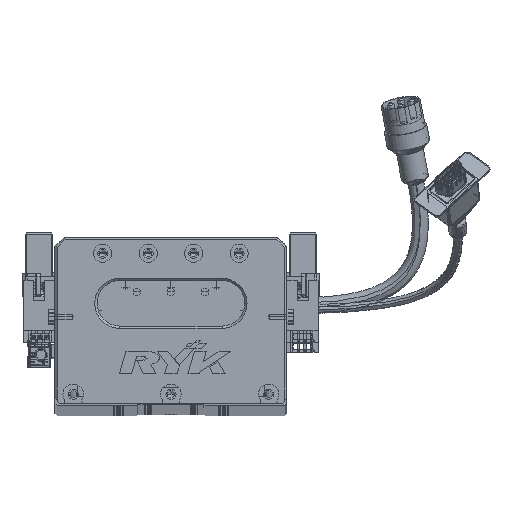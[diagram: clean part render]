
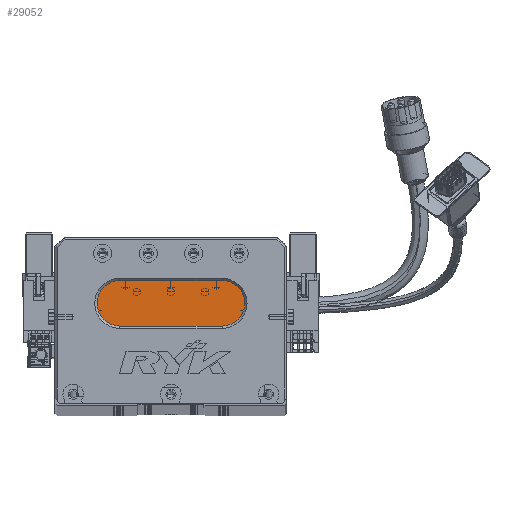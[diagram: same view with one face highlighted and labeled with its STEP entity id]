
A CAD part, top view. The second image highlights one B-rep face of the part: STEP entity #29052.
In plain terms, the highlighted planar face has unit normal (0, 0, 1) as drawn and (0, 0, -1) by its records, which use the part's own axes.
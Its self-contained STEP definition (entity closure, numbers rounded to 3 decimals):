
#2555 = VERTEX_POINT ( 'NONE', #14522 ) ;
#2748 = DIRECTION ( 'NONE',  ( -1., 0., 0. ) ) ;
#3537 = EDGE_CURVE ( 'NONE', #2555, #74397, #10894, .T. ) ;
#6101 = EDGE_CURVE ( 'NONE', #61650, #2555, #80610, .T. ) ;
#8787 = CARTESIAN_POINT ( 'NONE',  ( 28.5, 54., 13. ) ) ;
#10609 = ORIENTED_EDGE ( 'NONE', *, *, #6101, .T. ) ;
#10894 = LINE ( 'NONE', #27676, #22260 ) ;
#11909 = ORIENTED_EDGE ( 'NONE', *, *, #38935, .T. ) ;
#12514 = CARTESIAN_POINT ( 'NONE',  ( 18.5, 44., 13. ) ) ;
#14461 = EDGE_CURVE ( 'NONE', #66567, #61650, #81561, .T. ) ;
#14522 = CARTESIAN_POINT ( 'NONE',  ( 73.5, 34., 13. ) ) ;
#15540 = DIRECTION ( 'NONE',  ( 0., 0., -1. ) ) ;
#20674 = VERTEX_POINT ( 'NONE', #12514 ) ;
#21045 = AXIS2_PLACEMENT_3D ( 'NONE', #62290, #15540, #2748 ) ;
#21090 = CARTESIAN_POINT ( 'NONE',  ( 73.5, 44., 13. ) ) ;
#22260 = VECTOR ( 'NONE', #54524, 1000. ) ;
#25373 = ORIENTED_EDGE ( 'NONE', *, *, #3537, .T. ) ;
#27676 = CARTESIAN_POINT ( 'NONE',  ( 73.5, 34., 13. ) ) ;
#28110 = CARTESIAN_POINT ( 'NONE',  ( 28.5, 44., 13. ) ) ;
#29052 = ADVANCED_FACE ( 'NONE', ( #56200 ), #59543, .T. ) ;
#29733 = CARTESIAN_POINT ( 'NONE',  ( 73.5, 54., 13. ) ) ;
#30822 = EDGE_CURVE ( 'NONE', #20674, #66567, #82305, .T. ) ;
#31712 = CARTESIAN_POINT ( 'NONE',  ( 28.5, 44., 13. ) ) ;
#33290 = ORIENTED_EDGE ( 'NONE', *, *, #14461, .T. ) ;
#35572 = DIRECTION ( 'NONE',  ( 0., 0., -1. ) ) ;
#38935 = EDGE_CURVE ( 'NONE', #74397, #20674, #62233, .T. ) ;
#41938 = DIRECTION ( 'NONE',  ( -1., 0., 0. ) ) ;
#43014 = CARTESIAN_POINT ( 'NONE',  ( 28.5, 34., 13. ) ) ;
#44691 = AXIS2_PLACEMENT_3D ( 'NONE', #28110, #35572, #41938 ) ;
#45000 = DIRECTION ( 'NONE',  ( -1., 0., 0. ) ) ;
#49452 = CARTESIAN_POINT ( 'NONE',  ( 73.5, 54., 13. ) ) ;
#53337 = AXIS2_PLACEMENT_3D ( 'NONE', #21090, #79939, #73889 ) ;
#54524 = DIRECTION ( 'NONE',  ( -1., 0., 0. ) ) ;
#56200 = FACE_OUTER_BOUND ( 'NONE', #68604, .T. ) ;
#59543 = PLANE ( 'NONE',  #53337 ) ;
#61650 = VERTEX_POINT ( 'NONE', #49452 ) ;
#62233 = CIRCLE ( 'NONE', #44691, 10. ) ;
#62290 = CARTESIAN_POINT ( 'NONE',  ( 73.5, 44., 13. ) ) ;
#63183 = DIRECTION ( 'NONE',  ( 1., 0., 0. ) ) ;
#66567 = VERTEX_POINT ( 'NONE', #8787 ) ;
#68604 = EDGE_LOOP ( 'NONE', ( #10609, #25373, #11909, #84955, #33290 ) ) ;
#73889 = DIRECTION ( 'NONE',  ( -1., 0., 0. ) ) ;
#74368 = VECTOR ( 'NONE', #63183, 1000. ) ;
#74397 = VERTEX_POINT ( 'NONE', #43014 ) ;
#77827 = DIRECTION ( 'NONE',  ( 0., 0., -1. ) ) ;
#79927 = AXIS2_PLACEMENT_3D ( 'NONE', #31712, #77827, #45000 ) ;
#79939 = DIRECTION ( 'NONE',  ( 0., 0., -1. ) ) ;
#80610 = CIRCLE ( 'NONE', #21045, 10. ) ;
#81561 = LINE ( 'NONE', #29733, #74368 ) ;
#82305 = CIRCLE ( 'NONE', #79927, 10. ) ;
#84955 = ORIENTED_EDGE ( 'NONE', *, *, #30822, .T. ) ;
